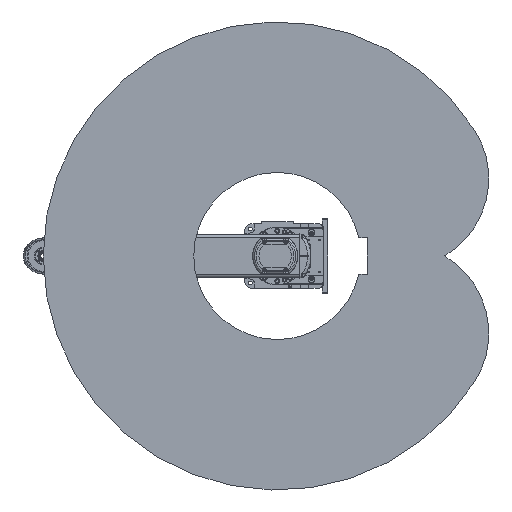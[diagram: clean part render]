
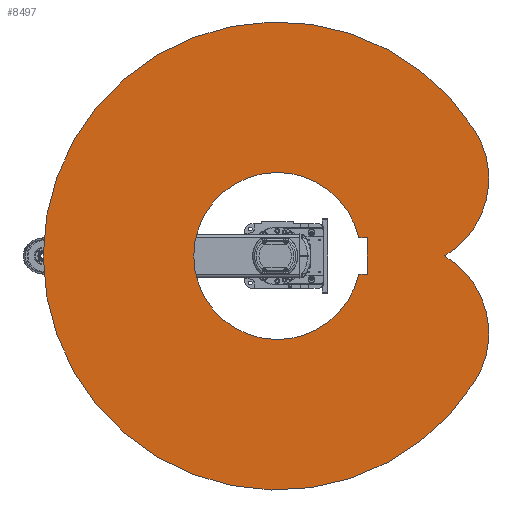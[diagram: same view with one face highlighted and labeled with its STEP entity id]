
A CAD part, front view. The second image highlights one B-rep face of the part: STEP entity #8497.
In plain terms, the highlighted planar face has unit normal (0, -1, 0).
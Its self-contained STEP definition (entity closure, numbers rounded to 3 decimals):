
#8497 = ADVANCED_FACE( '', ( #18724, #18725 ), #18726, .F. );
#18724 = FACE_OUTER_BOUND( '', #30410, .T. );
#18725 = FACE_BOUND( '', #30411, .T. );
#18726 = PLANE( '', #30412 );
#30410 = EDGE_LOOP( '', ( #53708, #53709, #53710 ) );
#30411 = EDGE_LOOP( '', ( #53711, #53712, #53713, #53714 ) );
#30412 = AXIS2_PLACEMENT_3D( '', #53715, #53716, #53717 );
#53708 = ORIENTED_EDGE( '', *, *, #68439, .F. );
#53709 = ORIENTED_EDGE( '', *, *, #68440, .F. );
#53710 = ORIENTED_EDGE( '', *, *, #60314, .F. );
#53711 = ORIENTED_EDGE( '', *, *, #68029, .T. );
#53712 = ORIENTED_EDGE( '', *, *, #65698, .T. );
#53713 = ORIENTED_EDGE( '', *, *, #64843, .T. );
#53714 = ORIENTED_EDGE( '', *, *, #61551, .T. );
#53715 = CARTESIAN_POINT( '', ( 107.46, 0., 168.678 ) );
#53716 = DIRECTION( '', ( 0., 1., 0. ) );
#53717 = DIRECTION( '', ( 0., 0., 1. ) );
#60314 = EDGE_CURVE( '', #70930, #70931, #70932, .T. );
#61551 = EDGE_CURVE( '', #73092, #73090, #73093, .T. );
#64843 = EDGE_CURVE( '', #78312, #73092, #78313, .T. );
#65698 = EDGE_CURVE( '', #79548, #78312, #79549, .T. );
#68029 = EDGE_CURVE( '', #73090, #79548, #82642, .T. );
#68439 = EDGE_CURVE( '', #83104, #70930, #83105, .T. );
#68440 = EDGE_CURVE( '', #70931, #83104, #83106, .T. );
#70930 = VERTEX_POINT( '', #86425 );
#70931 = VERTEX_POINT( '', #86426 );
#70932 = CIRCLE( '', #86427, 650. );
#73090 = VERTEX_POINT( '', #90070 );
#73092 = VERTEX_POINT( '', #90073 );
#73093 = CIRCLE( '', #90074, 232. );
#78312 = VERTEX_POINT( '', #98677 );
#78313 = LINE( '', #98678, #98679 );
#79548 = VERTEX_POINT( '', #100815 );
#79549 = LINE( '', #100816, #100817 );
#82642 = LINE( '', #106229, #106230 );
#83104 = VERTEX_POINT( '', #107149 );
#83105 = CIRCLE( '', #107150, 250. );
#83106 = CIRCLE( '', #107151, 250. );
#86425 = CARTESIAN_POINT( '', ( 349.245, 0., 548.204 ) );
#86426 = CARTESIAN_POINT( '', ( -349.245, 0., 548.204 ) );
#86427 = AXIS2_PLACEMENT_3D( '', #110071, #110072, #110073 );
#90070 = CARTESIAN_POINT( '', ( -50., 0., 226.548 ) );
#90073 = CARTESIAN_POINT( '', ( 50., 0., 226.548 ) );
#90074 = AXIS2_PLACEMENT_3D( '', #111684, #111685, #111686 );
#98677 = CARTESIAN_POINT( '', ( 50., 0., 250. ) );
#98678 = CARTESIAN_POINT( '', ( 50., 0., 250. ) );
#98679 = VECTOR( '', #115808, 1000. );
#100815 = CARTESIAN_POINT( '', ( -50., 0., 250. ) );
#100816 = CARTESIAN_POINT( '', ( -50., 0., 250. ) );
#100817 = VECTOR( '', #116868, 1000. );
#106229 = CARTESIAN_POINT( '', ( -50., 0., 0. ) );
#106230 = VECTOR( '', #119243, 1000. );
#107149 = CARTESIAN_POINT( '', ( 0., 0., 465.065 ) );
#107150 = AXIS2_PLACEMENT_3D( '', #119557, #119558, #119559 );
#107151 = AXIS2_PLACEMENT_3D( '', #119560, #119561, #119562 );
#110071 = CARTESIAN_POINT( '', ( 0., 0., 0. ) );
#110072 = DIRECTION( '', ( 0., 1., 0. ) );
#110073 = DIRECTION( '', ( 1., 0., 0. ) );
#111684 = CARTESIAN_POINT( '', ( 0., 0., 0. ) );
#111685 = DIRECTION( '', ( 0., 1., 0. ) );
#111686 = DIRECTION( '', ( 1., 0., 0. ) );
#115808 = DIRECTION( '', ( 0., 0., -1. ) );
#116868 = DIRECTION( '', ( 1., 0., 0. ) );
#119243 = DIRECTION( '', ( 0., 0., 1. ) );
#119557 = CARTESIAN_POINT( '', ( 214.92, 0., 337.357 ) );
#119558 = DIRECTION( '', ( 0., 1., 0. ) );
#119559 = DIRECTION( '', ( 1., 0., 0. ) );
#119560 = CARTESIAN_POINT( '', ( -214.92, 0., 337.357 ) );
#119561 = DIRECTION( '', ( 0., 1., 0. ) );
#119562 = DIRECTION( '', ( 1., 0., 0. ) );
